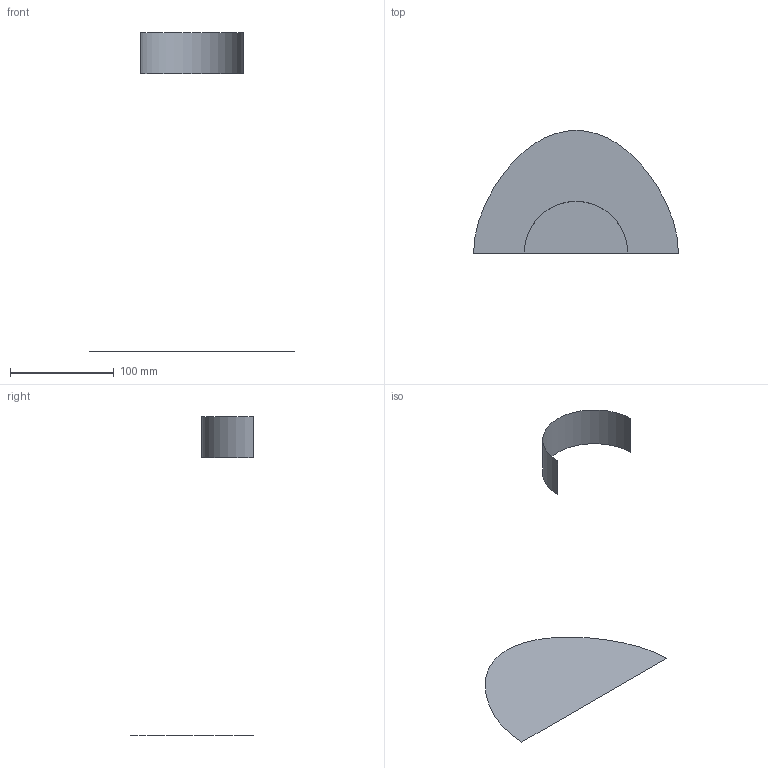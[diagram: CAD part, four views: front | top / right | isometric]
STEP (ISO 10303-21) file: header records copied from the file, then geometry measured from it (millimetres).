
FILE_DESCRIPTION(('CATIA V5 STEP Exchange'),'2;1');
FILE_NAME('C:\_Andres\UNIVERSIDAD\IQS\ASIGNATURAS\DAO\Controles\1617\c1\1original\Domeque_Sanz_Ej00-base_v9.stp','2017-02-06T16:27:36+00:00',('none'),('none'),'CATIA Version 5-6 Release 2014 SP1 HF18','CATIA V5 STEP AP203','none');
FILE_SCHEMA(('CONFIG_CONTROL_DESIGN'));
Length unit declared in the file: millimetre
Products named in the file (1): Domeque_Sanz_Ej00-base_v9
Bounding box: 198 x 119 x 308 mm (x, y, z)
Surface area: 24037.9 mm2 (no closed solid volume)
Topology: 0 solids, 2 shells, 2 faces, 16 edges, 26 vertices
Faces by surface type: cylinder 1, plane 1
Entity records: 230 total; most frequent: CARTESIAN_POINT 78, DIRECTION 16, COMPOSITE_CURVE_SEGMENT 9, TRIMMED_CURVE 9, AXIS2_PLACEMENT_3D 8, COMPOSITE_CURVE 7, ORIENTED_EDGE 7, EDGE_CURVE 7
